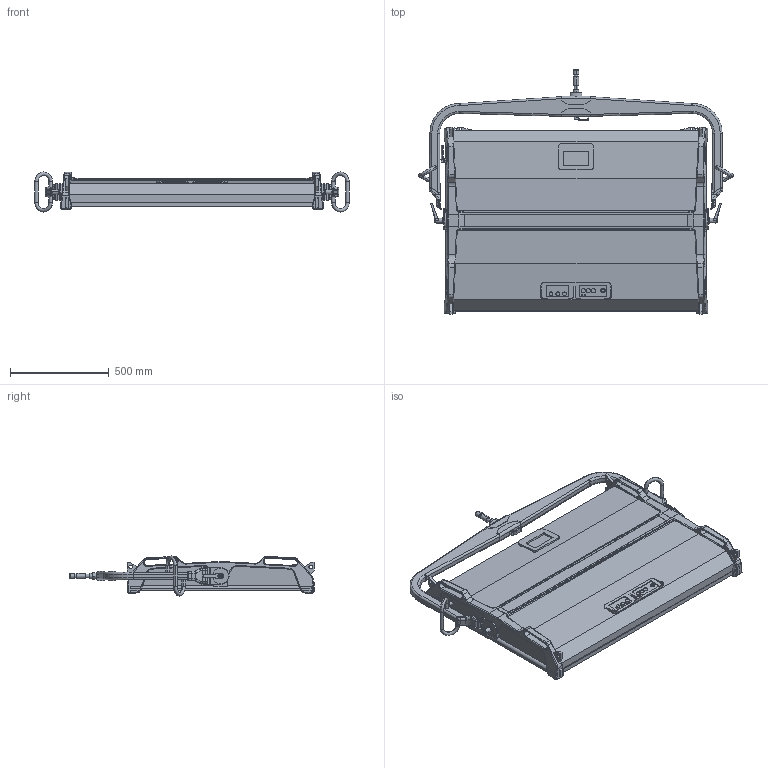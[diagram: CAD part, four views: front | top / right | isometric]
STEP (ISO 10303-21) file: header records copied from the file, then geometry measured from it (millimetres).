
FILE_DESCRIPTION (( 'STEP AP214' ), '1' );
FILE_NAME ('S360-C_man_3D.STEP', '2017-11-15T12:07:28', ( '' ), ( '' ), 'SwSTEP 2.0', 'SolidWorks 2016', '' );
FILE_SCHEMA (( 'AUTOMOTIVE_DESIGN' ));
Length unit declared in the file: millimetre
Products named in the file (3): S360_Carbonbuegel_3D; S360-C_3D; S360-C_man_3D
Assembly tree (2 placements, depth 2):
  S360-C_man_3D
    S360-C_3D
    S360_Carbonbuegel_3D
Bounding box: 1593.45 x 1236.9 x 203 mm (x, y, z)
Volume: 146244590.4 mm3; surface area: 3698939.2 mm2
Topology: 2 solids, 2 shells, 1018 faces, 2574 edges, 1580 vertices
Faces by surface type: plane 446, cylinder 366, bspline 102, torus 48, sphere 32, cone 24
Entity records: 39946 total; most frequent: CARTESIAN_POINT 9673, ORIENTED_EDGE 5108, DIRECTION 4836, EDGE_CURVE 2554, AXIS2_PLACEMENT_3D 1691, VERTEX_POINT 1580, VECTOR 1454, LINE 1454
